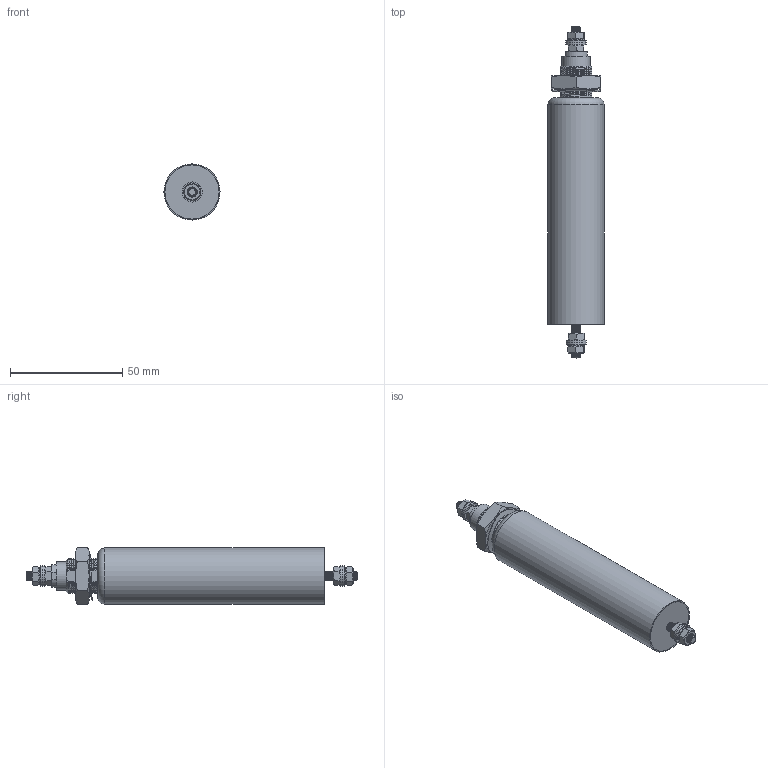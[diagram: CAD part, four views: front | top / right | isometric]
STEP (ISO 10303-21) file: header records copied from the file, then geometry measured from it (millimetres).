
FILE_DESCRIPTION(/* description */ ('naming raw material'),/* implementation_level */ '2;1');
FILE_NAME(/* name */ 'C:\SapWorkDir\Inventor\P01\ConvertTempPath\187370_IPT_000.stp.ipt.stp',/* time_stamp */ '2018-01-17T09:46:31+07:00',/* author */ ('Eakchai.Yodchai'),/* organization */ ('Schaffner Thailand Ltd.'),/* preprocessor_version */ 'ST-DEVELOPER v16.5',/* originating_system */ 'Autodesk Inventor 2017',/* authorisation */ '');
FILE_SCHEMA (('AUTOMOTIVE_DESIGN { 1 0 10303 214 3 1 1 }'));
Length unit declared in the file: millimetre
Products named in the file (1): 187370_IPT_000.stp
Bounding box: 25 x 148 x 25.4 mm (x, y, z)
Surface area: 28162.2 mm2 (no closed solid volume)
Topology: 0 solids, 1 shells, 241 faces, 693 edges, 449 vertices
Faces by surface type: cylinder 73, plane 72, bspline 59, cone 36, torus 1
Full cylindrical faces by diameter (mm): 4 x2, 4.2 x1, 4.3 x4, 7 x1, 9 x4, 9.5 x1, 12.6 x1, 16 x1, 16.4 x1, 21.5 x1, 24.1 x1, 24.2 x1, 25 x1
Entity records: 16051 total; most frequent: CARTESIAN_POINT 10692, ORIENTED_EDGE 1216, DIRECTION 739, EDGE_CURVE 599, VERTEX_POINT 408, EDGE_LOOP 322, AXIS2_PLACEMENT_3D 299, B_SPLINE_CURVE_WITH_KNOTS 262
